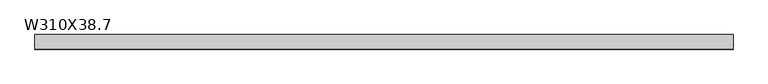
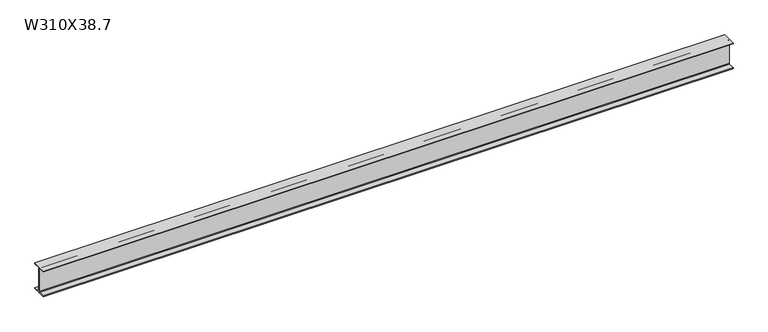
"""IFC4 building model written with IfcOpenShell, lengths in millimetres: beam geometry, M_W Формы : W310X38.7."""

from ifc_helpers import new_model, si_unit, point, frame, frame_2d, origin, place, context, project, spatial, polyline, circle_curve, trimmed, segment, composite_curve, outline, extrude, source, transform, mapped, element, save


def w310x38_7_990ea90e(model_context):
    return source(origin(), model_context, "Body", "SweptSolid", [
        extrude(outline(composite_curve([segment(polyline([(82.5, -145.35), (82.5, -155.0), (-82.5, -155.0), (-82.5, -145.35), (-10.57, -145.35)]), True, "CONTINUOUS"), segment(trimmed(circle_curve(frame_2d((-10.57, -137.7)), 7.65), [point((-10.57, -145.35))], [point((-2.92, -137.7))], True, "CARTESIAN"), True, "CONTINUOUS"), segment(polyline([(-2.92, -137.7), (-2.92, 137.7)]), True, "CONTINUOUS"), segment(trimmed(circle_curve(frame_2d((-10.57, 137.7)), 7.65), [point((-2.92, 137.7))], [point((-10.57, 145.35))], True, "CARTESIAN"), True, "CONTINUOUS"), segment(polyline([(-10.57, 145.35), (-82.5, 145.35), (-82.5, 155.0), (82.5, 155.0), (82.5, 145.35), (10.57, 145.35)]), True, "CONTINUOUS"), segment(trimmed(circle_curve(frame_2d((10.57, 137.7)), 7.65), [point((10.57, 145.35))], [point((2.92, 137.7))], True, "CARTESIAN"), True, "CONTINUOUS"), segment(polyline([(2.92, 137.7), (2.92, -137.7)]), True, "CONTINUOUS"), segment(trimmed(circle_curve(frame_2d((10.57, -137.7)), 7.65), [point((2.92, -137.7))], [point((10.57, -145.35))], True, "CARTESIAN"), True, "CONTINUOUS"), segment(polyline([(10.57, -145.35), (82.5, -145.35)]), True, "CONTINUOUS")], self_intersect=False)), frame((1112.6573839, 0.0, 0.0), z_axis=(1.0, 0.0, 0.0), x_axis=(0.0, 1.0, 0.0)), (0.0, 0.0, 1.0), 7897.7579929),
    ])


if __name__ == "__main__":
    model = new_model("IFC4")
    model_context = context("Model", 3, world=origin())
    ifc_project = project(units=[si_unit("LENGTHUNIT", "METRE", prefix="MILLI")], contexts=[model_context])
    site = spatial("IfcSite", under=ifc_project)
    building = spatial("IfcBuilding", under=site)
    placement = place(None, origin())
    w310x38_7_shape = w310x38_7_990ea90e(model_context)
    element("IfcBeam", 1, ObjectType="M_W Формы : W310X38.7", at=placement, inside=building, context=model_context, shape_type="MappedRepresentation", body=[
        mapped(w310x38_7_shape, transform((0.0, 0.0, 0.0), x_axis=(1.0, 0.0, 0.0), y_axis=(0.0, 1.0, 0.0), z_axis=(0.0, 0.0, 1.0))),
    ])
    save(model, "model.ifc")
